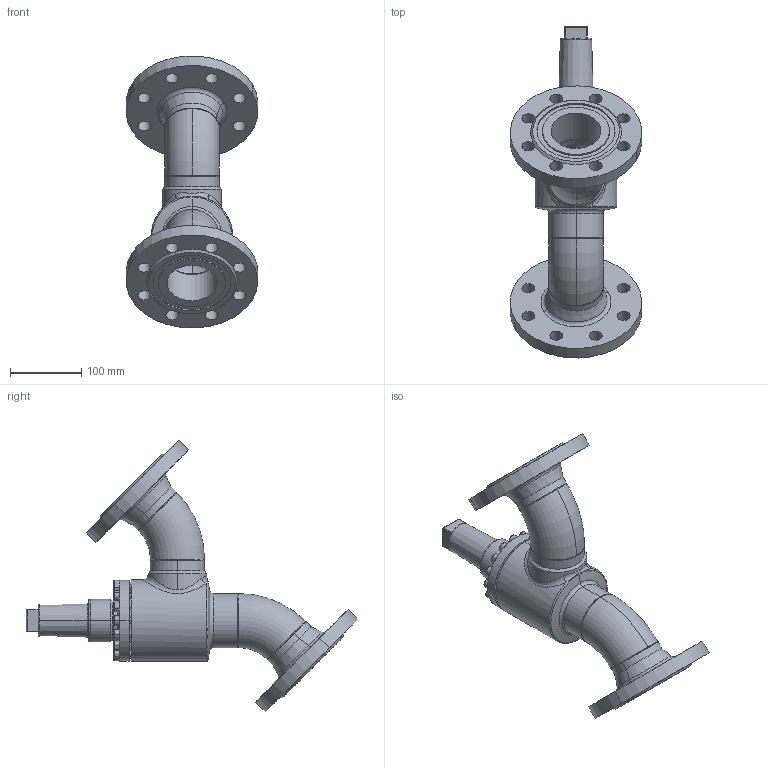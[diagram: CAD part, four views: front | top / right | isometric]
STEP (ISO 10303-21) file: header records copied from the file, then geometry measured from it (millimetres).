
FILE_DESCRIPTION (( 'STEP AP214' ), '1' );
FILE_NAME ('HRAB12320D17-DN065_DIN-FL-N_PS40.STEP', '2006-04-27T12:00:18', ( 'Herr Grams' ), ( 'AWP GmbH' ), 'SwSTEP 2.0', 'SolidWorks 2002296', '' );
FILE_SCHEMA (( 'AUTOMOTIVE_DESIGN' ));
Length unit declared in the file: millimetre
Products named in the file (14): HRAB12320D17-DN065_DIN-FL-N_PS40; Gehäuse-kpl16320-DN065_DIN_PS40_Standard; Gehäuse-kpl16300-DN065_R1_Standard; Gehäuse16400-DN065_Standard; bead-DN065-3_Standard; bead-DN065-2_Standard; Rohrbogen 45°_Rohrbogen-DN065-45°; Flansch-DIN-Nut_PS40_DIN-Flansch-DN065_PS40-Nut; bead-DN065-6_Standard; bead-DN065-7_Standard; AVB16300K17_Deck+Schr-DN65_Standard; Deckel16300K17-DN65_Standard; Zylinderschraube-DIN912_M 8x 25; Kappe16402_DN040-65_Standard
Assembly tree (30 placements, depth 4):
  HRAB12320D17-DN065_DIN-FL-N_PS40
    Kappe16402_DN040-65_Standard
    Gehäuse-kpl16320-DN065_DIN_PS40_Standard
      Flansch-DIN-Nut_PS40_DIN-Flansch-DN065_PS40-Nut  x2
      bead-DN065-6_Standard
      Gehäuse-kpl16300-DN065_R1_Standard
        Rohrbogen 45°_Rohrbogen-DN065-45°  x2
        bead-DN065-3_Standard
        Gehäuse16400-DN065_Standard
        bead-DN065-2_Standard
      bead-DN065-7_Standard
    AVB16300K17_Deck+Schr-DN65_Standard
      Zylinderschraube-DIN912_M 8x 25  x16
      Deckel16300K17-DN65_Standard
Bounding box: 184.82 x 466.88 x 382.4 mm (x, y, z)
Volume: 1928833 mm3; surface area: 455360.5 mm2
Topology: 27 solids, 27 shells, 564 faces, 1296 edges, 826 vertices
Faces by surface type: plane 217, cylinder 210, cone 60, torus 59, bspline 18
Entity records: 20289 total; most frequent: CARTESIAN_POINT 13385, DIRECTION 1354, ORIENTED_EDGE 1200, EDGE_CURVE 600, AXIS2_PLACEMENT_3D 586, VERTEX_POINT 384, EDGE_LOOP 328, CIRCLE 318
